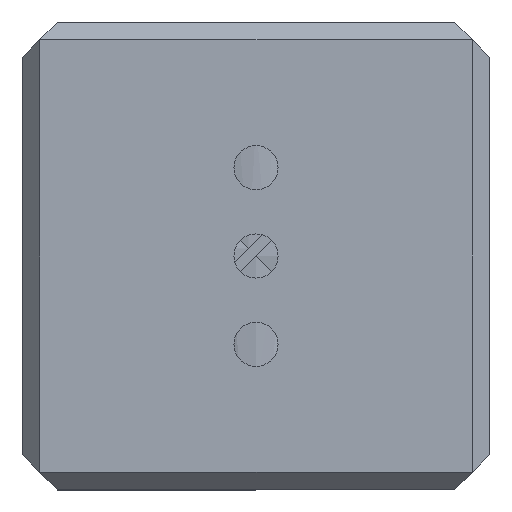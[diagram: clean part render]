
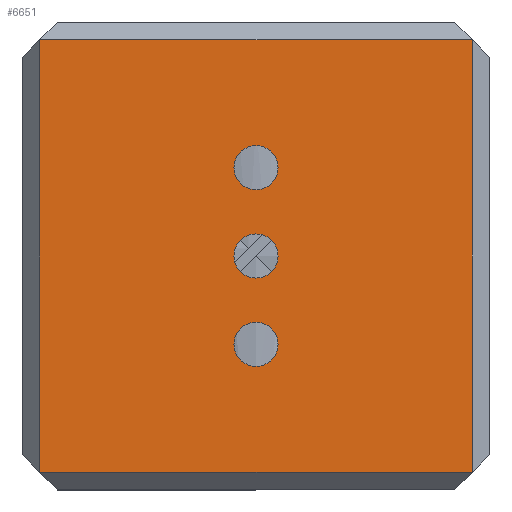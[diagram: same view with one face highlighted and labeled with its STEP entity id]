
A CAD part, front view. The second image highlights one B-rep face of the part: STEP entity #6651.
In plain terms, the highlighted planar face has unit normal (0, -1, 0).
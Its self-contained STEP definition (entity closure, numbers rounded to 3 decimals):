
#75 = VERTEX_POINT ( 'NONE', #2877 ) ;
#109 = CIRCLE ( 'NONE', #4915, 2.5 ) ;
#155 = DIRECTION ( 'NONE',  ( 1., 0., 0. ) ) ;
#224 = CIRCLE ( 'NONE', #10705, 2.5 ) ;
#745 = CARTESIAN_POINT ( 'NONE',  ( 2.5, -59.5, 10. ) ) ;
#906 = DIRECTION ( 'NONE',  ( 1., 0., 0. ) ) ;
#913 = ORIENTED_EDGE ( 'NONE', *, *, #6751, .F. ) ;
#988 = PLANE ( 'NONE',  #6089 ) ;
#1099 = ORIENTED_EDGE ( 'NONE', *, *, #15057, .T. ) ;
#1230 = EDGE_CURVE ( 'NONE', #75, #3232, #17959, .T. ) ;
#1262 = LINE ( 'NONE', #5571, #18377 ) ;
#1391 = DIRECTION ( 'NONE',  ( 0., -1., 0. ) ) ;
#1394 = CARTESIAN_POINT ( 'NONE',  ( 26.5, -59.5, -24.5 ) ) ;
#1477 = CARTESIAN_POINT ( 'NONE',  ( -24.5, -59.5, 24.5 ) ) ;
#2212 = LINE ( 'NONE', #17619, #7328 ) ;
#2294 = LINE ( 'NONE', #8365, #11188 ) ;
#2314 = FACE_BOUND ( 'NONE', #9986, .T. ) ;
#2877 = CARTESIAN_POINT ( 'NONE',  ( -2.5, -59.5, -10. ) ) ;
#3118 = VERTEX_POINT ( 'NONE', #13326 ) ;
#3232 = VERTEX_POINT ( 'NONE', #12466 ) ;
#3787 = DIRECTION ( 'NONE',  ( -1., 0., 0. ) ) ;
#3886 = DIRECTION ( 'NONE',  ( 1., 0., 0. ) ) ;
#4030 = VERTEX_POINT ( 'NONE', #15231 ) ;
#4042 = DIRECTION ( 'NONE',  ( 1., 0., 0. ) ) ;
#4104 = ORIENTED_EDGE ( 'NONE', *, *, #7197, .T. ) ;
#4378 = VERTEX_POINT ( 'NONE', #10949 ) ;
#4416 = DIRECTION ( 'NONE',  ( 0., -1., 0. ) ) ;
#4432 = VERTEX_POINT ( 'NONE', #745 ) ;
#4449 = EDGE_CURVE ( 'NONE', #4432, #3118, #17562, .T. ) ;
#4915 = AXIS2_PLACEMENT_3D ( 'NONE', #18354, #14092, #3886 ) ;
#5279 = DIRECTION ( 'NONE',  ( 0., 0., 1. ) ) ;
#5482 = DIRECTION ( 'NONE',  ( 0., 0., -1. ) ) ;
#5571 = CARTESIAN_POINT ( 'NONE',  ( -24.5, -59.5, -26.5 ) ) ;
#5573 = FACE_BOUND ( 'NONE', #12676, .T. ) ;
#6073 = ORIENTED_EDGE ( 'NONE', *, *, #1230, .F. ) ;
#6089 = AXIS2_PLACEMENT_3D ( 'NONE', #12496, #18170, #906 ) ;
#6178 = EDGE_CURVE ( 'NONE', #3118, #4432, #12515, .T. ) ;
#6415 = VERTEX_POINT ( 'NONE', #10185 ) ;
#6510 = DIRECTION ( 'NONE',  ( 0., -1., 0. ) ) ;
#6651 = ADVANCED_FACE ( 'NONE', ( #5573, #2314, #8121, #6883 ), #988, .T. ) ;
#6751 = EDGE_CURVE ( 'NONE', #3232, #75, #109, .T. ) ;
#6883 = FACE_OUTER_BOUND ( 'NONE', #12744, .T. ) ;
#7197 = EDGE_CURVE ( 'NONE', #6415, #4030, #2294, .T. ) ;
#7328 = VECTOR ( 'NONE', #3787, 1000. ) ;
#8121 = FACE_BOUND ( 'NONE', #8661, .T. ) ;
#8365 = CARTESIAN_POINT ( 'NONE',  ( 24.5, -59.5, 26.5 ) ) ;
#8513 = EDGE_CURVE ( 'NONE', #4030, #12873, #2212, .T. ) ;
#8539 = EDGE_CURVE ( 'NONE', #14352, #10013, #16000, .T. ) ;
#8661 = EDGE_LOOP ( 'NONE', ( #913, #6073 ) ) ;
#9410 = DIRECTION ( 'NONE',  ( 1., 0., 0. ) ) ;
#9499 = CARTESIAN_POINT ( 'NONE',  ( 0., -59.5, 0. ) ) ;
#9604 = AXIS2_PLACEMENT_3D ( 'NONE', #13595, #18036, #14894 ) ;
#9703 = CARTESIAN_POINT ( 'NONE',  ( 0., -59.5, 0. ) ) ;
#9837 = AXIS2_PLACEMENT_3D ( 'NONE', #16859, #4416, #4042 ) ;
#9986 = EDGE_LOOP ( 'NONE', ( #15538, #10435 ) ) ;
#10013 = VERTEX_POINT ( 'NONE', #18054 ) ;
#10185 = CARTESIAN_POINT ( 'NONE',  ( 24.5, -59.5, -24.5 ) ) ;
#10435 = ORIENTED_EDGE ( 'NONE', *, *, #6178, .F. ) ;
#10473 = ORIENTED_EDGE ( 'NONE', *, *, #13603, .F. ) ;
#10693 = EDGE_CURVE ( 'NONE', #12873, #4378, #1262, .T. ) ;
#10705 = AXIS2_PLACEMENT_3D ( 'NONE', #9703, #15690, #11391 ) ;
#10949 = CARTESIAN_POINT ( 'NONE',  ( -24.5, -59.5, -24.5 ) ) ;
#11188 = VECTOR ( 'NONE', #5279, 1000. ) ;
#11391 = DIRECTION ( 'NONE',  ( 1., 0., 0. ) ) ;
#11758 = LINE ( 'NONE', #1394, #15524 ) ;
#11914 = AXIS2_PLACEMENT_3D ( 'NONE', #15421, #1391, #16907 ) ;
#12466 = CARTESIAN_POINT ( 'NONE',  ( 2.5, -59.5, -10. ) ) ;
#12496 = CARTESIAN_POINT ( 'NONE',  ( 0., -59.5, 0. ) ) ;
#12515 = CIRCLE ( 'NONE', #9837, 2.5 ) ;
#12676 = EDGE_LOOP ( 'NONE', ( #10473, #16398 ) ) ;
#12744 = EDGE_LOOP ( 'NONE', ( #16460, #16264, #1099, #4104 ) ) ;
#12873 = VERTEX_POINT ( 'NONE', #1477 ) ;
#13326 = CARTESIAN_POINT ( 'NONE',  ( -2.5, -59.5, 10. ) ) ;
#13595 = CARTESIAN_POINT ( 'NONE',  ( 0., -59.5, -10. ) ) ;
#13603 = EDGE_CURVE ( 'NONE', #10013, #14352, #224, .T. ) ;
#14092 = DIRECTION ( 'NONE',  ( 0., -1., 0. ) ) ;
#14352 = VERTEX_POINT ( 'NONE', #15527 ) ;
#14894 = DIRECTION ( 'NONE',  ( 1., 0., 0. ) ) ;
#15057 = EDGE_CURVE ( 'NONE', #4378, #6415, #11758, .T. ) ;
#15231 = CARTESIAN_POINT ( 'NONE',  ( 24.5, -59.5, 24.5 ) ) ;
#15421 = CARTESIAN_POINT ( 'NONE',  ( 0., -59.5, 10. ) ) ;
#15524 = VECTOR ( 'NONE', #155, 1000. ) ;
#15527 = CARTESIAN_POINT ( 'NONE',  ( -2.5, -59.5, 0. ) ) ;
#15538 = ORIENTED_EDGE ( 'NONE', *, *, #4449, .F. ) ;
#15690 = DIRECTION ( 'NONE',  ( 0., -1., 0. ) ) ;
#16000 = CIRCLE ( 'NONE', #17776, 2.5 ) ;
#16264 = ORIENTED_EDGE ( 'NONE', *, *, #10693, .T. ) ;
#16398 = ORIENTED_EDGE ( 'NONE', *, *, #8539, .F. ) ;
#16460 = ORIENTED_EDGE ( 'NONE', *, *, #8513, .T. ) ;
#16859 = CARTESIAN_POINT ( 'NONE',  ( 0., -59.5, 10. ) ) ;
#16907 = DIRECTION ( 'NONE',  ( 1., 0., 0. ) ) ;
#17562 = CIRCLE ( 'NONE', #11914, 2.5 ) ;
#17619 = CARTESIAN_POINT ( 'NONE',  ( -26.5, -59.5, 24.5 ) ) ;
#17776 = AXIS2_PLACEMENT_3D ( 'NONE', #9499, #6510, #9410 ) ;
#17959 = CIRCLE ( 'NONE', #9604, 2.5 ) ;
#18036 = DIRECTION ( 'NONE',  ( 0., -1., 0. ) ) ;
#18054 = CARTESIAN_POINT ( 'NONE',  ( 2.5, -59.5, 0. ) ) ;
#18170 = DIRECTION ( 'NONE',  ( 0., -1., 0. ) ) ;
#18354 = CARTESIAN_POINT ( 'NONE',  ( 0., -59.5, -10. ) ) ;
#18377 = VECTOR ( 'NONE', #5482, 1000. ) ;
